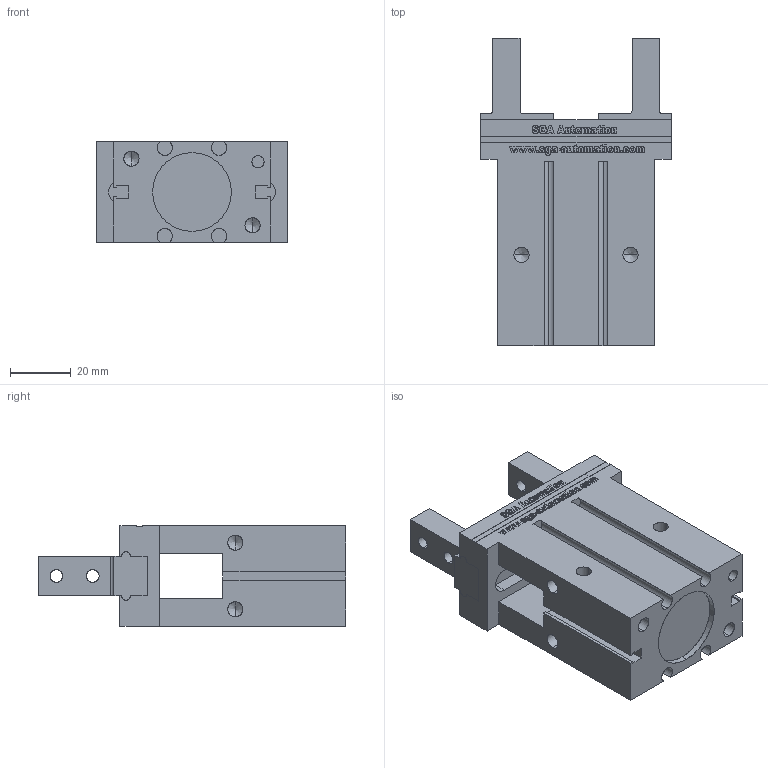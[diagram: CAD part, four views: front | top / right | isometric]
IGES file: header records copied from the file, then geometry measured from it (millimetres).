
Start section: SolidWorks IGES file using analytic representation for surfaces
Global section: file name: F:\Convertie\igs\GDZ 25 ouvert.IGS; native system: SolidWorks 2014; preprocessor: SolidWorks 2014; author: adminlocal; date: 141222.160029; units: millimetre
Bounding box: 63 x 101.6 x 33.2 mm (x, y, z)
Surface area: 32724.2 mm2 (no closed solid volume)
Topology: 0 solids, 0 shells, 1247 faces, 14738 edges, 14718 vertices
Faces by surface type: bspline 1164, revolution 83
